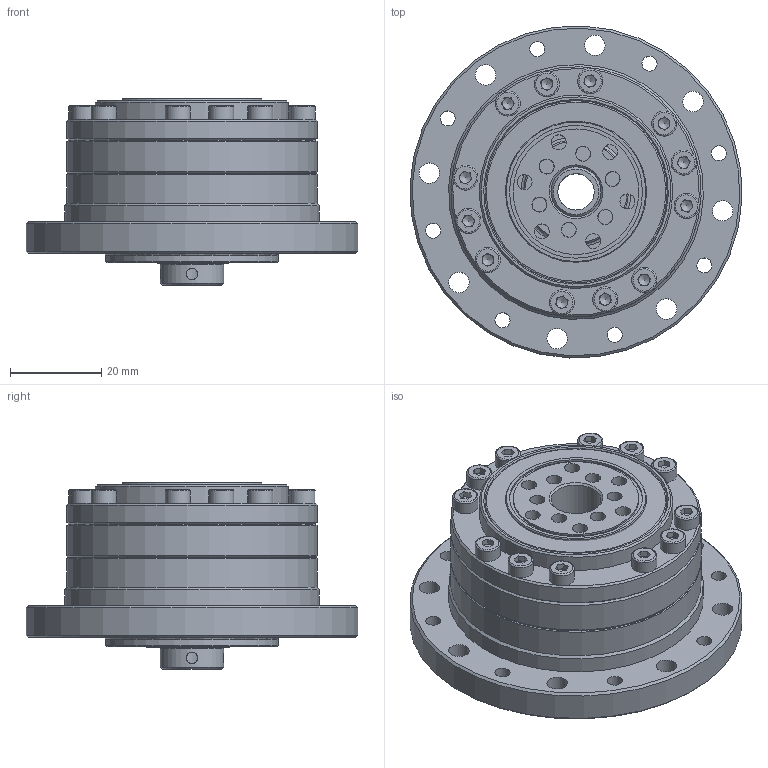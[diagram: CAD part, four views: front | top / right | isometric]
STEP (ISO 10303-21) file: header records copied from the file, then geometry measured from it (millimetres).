
FILE_DESCRIPTION (( 'STEP AP203' ), '1' );
FILE_NAME ('LCSG-14-XXX-C-II-S0.STEP', '2025-01-20T01:49:07', ( '' ), ( '' ), 'SwSTEP 2.0', 'SolidWorks 2023', '' );
FILE_SCHEMA (( 'CONFIG_CONTROL_DESIGN' ));
Length unit declared in the file: metre
Products named in the file (1): LCSG-14-XXX-C-II-S0
Bounding box: 72.94 x 72.94 x 41 mm (x, y, z)
Volume: 70313.5 mm3; surface area: 57331.8 mm2
Topology: 56 solids, 56 shells, 811 faces, 1931 edges, 1232 vertices
Faces by surface type: plane 412, cylinder 235, bspline 84, cone 80
Full cylindrical faces by diameter (mm): 1.7 x2, 2.5 x14, 3 x12, 3.3 x20, 3.5 x20, 4 x6, 4.5 x20, 5.5 x12, 7 x6, 8 x2, 11 x3, 13 x1, 14 x2, 14.5 x3, 17.7 x2, 20 x1, 22 x2, 23 x1, 24 x3, 25 x1, 25.07 x1, 26.707 x2, 27 x1, 27.6 x2, 29.2 x1, 30 x1, 30.5 x1, 31 x1, 31.4 x1, 32.36 x2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
Entity records: 25706 total; most frequent: CARTESIAN_POINT 8772, DIRECTION 3542, ORIENTED_EDGE 2950, EDGE_CURVE 1475, AXIS2_PLACEMENT_3D 1463, EDGE_LOOP 1316, VERTEX_POINT 1117, FACE_OUTER_BOUND 1026
